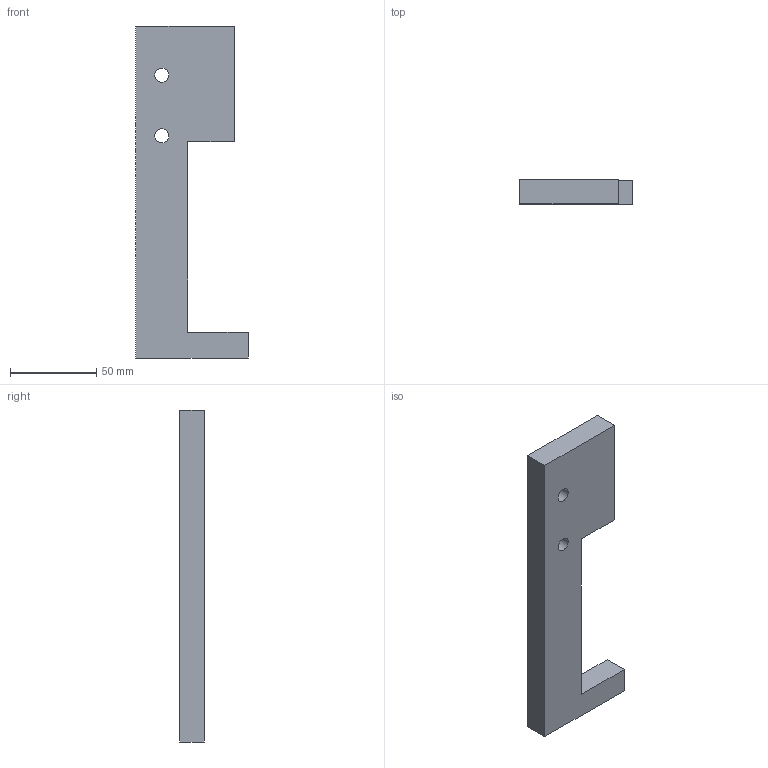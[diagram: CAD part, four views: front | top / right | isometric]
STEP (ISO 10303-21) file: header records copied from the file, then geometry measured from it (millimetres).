
FILE_DESCRIPTION(('Open CASCADE Model'),'2;1');
FILE_NAME('Open CASCADE Shape Model','2026-10-20T13:19:34',('Author'),( 'Open CASCADE'),'Open CASCADE STEP processor 7.9','Open CASCADE 7.9' ,'Unknown');
FILE_SCHEMA(('AUTOMOTIVE_DESIGN { 1 0 10303 214 1 1 1 1 }'));
Length unit declared in the file: millimetre
Products named in the file (1): Open CASCADE STEP translator 7.9 18
Bounding box: 65 x 14 x 192.11 mm (x, y, z)
Volume: 111885.8 mm3; surface area: 24660.1 mm2
Topology: 1 solids, 1 shells, 12 faces, 30 edges, 20 vertices
Faces by surface type: plane 10, cylinder 2
Full cylindrical faces by diameter (mm): 8.2 x2
Entity records: 778 total; most frequent: CARTESIAN_POINT 147, DIRECTION 116, LINE 82, VECTOR 82, ORIENTED_EDGE 60, PCURVE 60, DEFINITIONAL_REPRESENTATION 60, EDGE_CURVE 30
